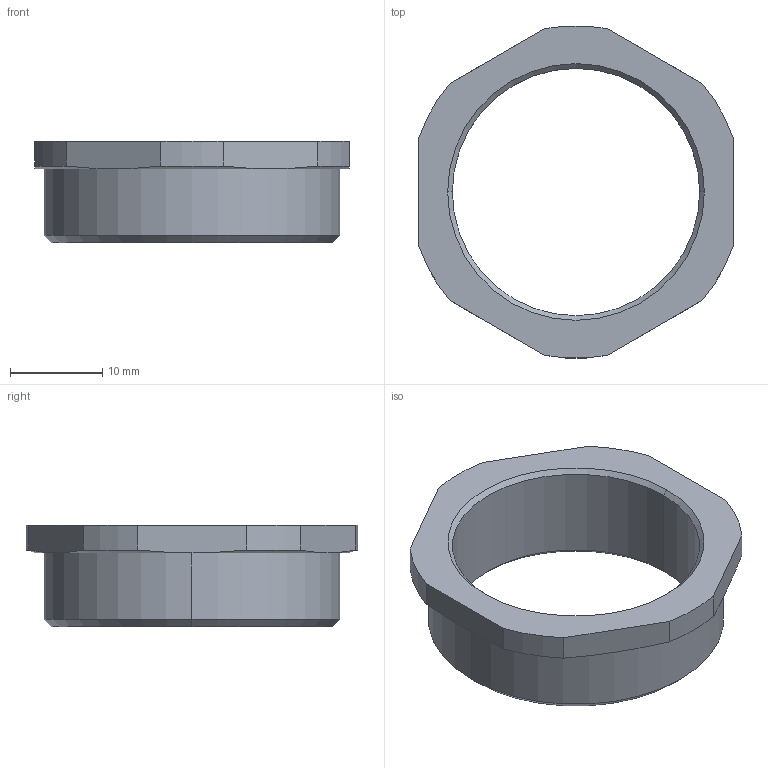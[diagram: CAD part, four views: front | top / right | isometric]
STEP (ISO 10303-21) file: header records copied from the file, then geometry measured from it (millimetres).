
FILE_DESCRIPTION (( 'STEP AP203' ), '1' );
FILE_NAME ('M32PG21-OM.STEP', '2006-05-22T11:46:14', ( ' ' ), ( '' ), 'SwSTEP 2.0', 'SolidWorks 2005278', '' );
FILE_SCHEMA (( 'CONFIG_CONTROL_DESIGN' ));
Length unit declared in the file: millimetre
Products named in the file (1): M32PG21-OM
Bounding box: 34 x 35.93 x 11 mm (x, y, z)
Volume: 3086.6 mm3; surface area: 2767.5 mm2
Topology: 1 solids, 1 shells, 64 faces, 168 edges, 110 vertices
Faces by surface type: plane 46, cylinder 10, cone 8
Entity records: 2045 total; most frequent: CARTESIAN_POINT 371, ORIENTED_EDGE 336, DIRECTION 318, EDGE_CURVE 168, LINE 132, VECTOR 132, VERTEX_POINT 110, AXIS2_PLACEMENT_3D 93
